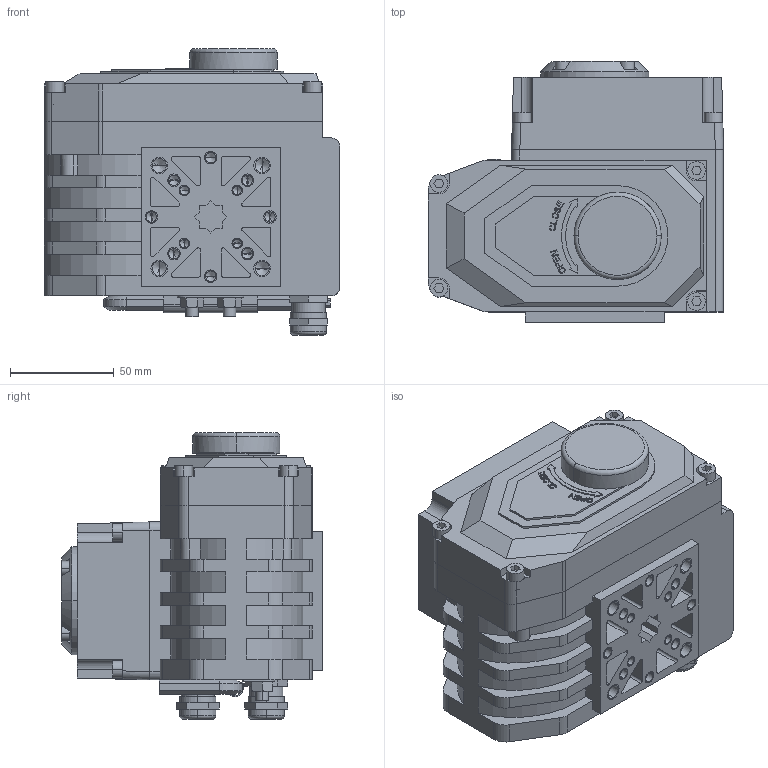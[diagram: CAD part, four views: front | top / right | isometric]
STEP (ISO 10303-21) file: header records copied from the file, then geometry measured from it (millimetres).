
FILE_DESCRIPTION((''),'2;1');
FILE_NAME('ELECTROPRIVOD_ASM','2024-09-01T',('AMD'),(''),'PRO/ENGINEER BY PARAMETRIC TECHNOLOGY CORPORATION, 2008020','PRO/ENGINEER BY PARAMETRIC TECHNOLOGY CORPORATION, 2008020','');
FILE_SCHEMA(('CONFIG_CONTROL_DESIGN'));
Length unit declared in the file: millimetre
Products named in the file (9): DET_1; V-11738-M5; V-11738-M4; DET_2; KREPLENIE; KLUCH; DET_3; G-5915-M6; ELECTROPRIVOD_ASM
Assembly tree (19 placements, depth 2):
  ELECTROPRIVOD_ASM
    DET_1
    V-11738-M5  x8
    V-11738-M4  x4
    DET_2
    KREPLENIE
    KLUCH
    DET_3
    G-5915-M6  x2
Bounding box: 142 x 125.5 x 138 mm (x, y, z)
Volume: 1349050.4 mm3; surface area: 152933.8 mm2
Topology: 19 solids, 49 shells, 1019 faces, 2636 edges, 1736 vertices
Faces by surface type: plane 699, cylinder 260, cone 54, torus 6
Entity records: 25908 total; most frequent: CARTESIAN_POINT 4717, DIRECTION 4342, ORIENTED_EDGE 4280, EDGE_CURVE 2180, VECTOR 1676, LINE 1676, VERTEX_POINT 1448, AXIS2_PLACEMENT_3D 1333
